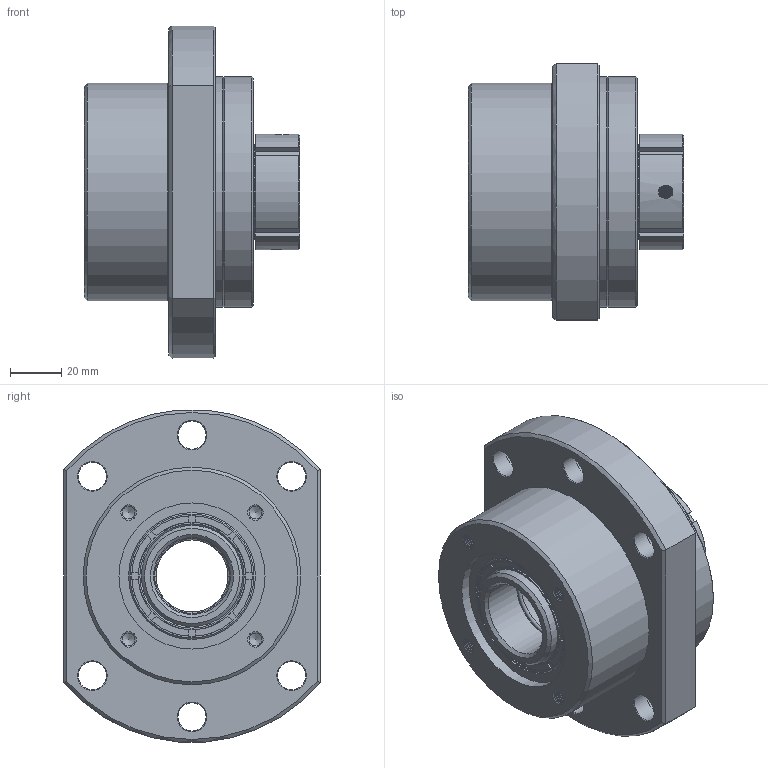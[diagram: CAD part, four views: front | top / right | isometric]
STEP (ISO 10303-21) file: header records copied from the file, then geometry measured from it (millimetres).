
FILE_DESCRIPTION(('STEP AP214'),'1');
FILE_NAME('WBK30DF (2).stp','2016-10-05T11:30:53',(' '),(' '),'Spatial InterOp 3D',' ',' ');
FILE_SCHEMA(('automotive_design'));
Length unit declared in the file: millimetre
Products named in the file (3): Assembly8; WBK30DF; WBK30DF_1
Assembly tree (2 placements, depth 2):
  Assembly8
    WBK30DF
    WBK30DF_1
Bounding box: 84 x 100 x 129.59 mm (x, y, z)
Volume: 386724.7 mm3; surface area: 96304.9 mm2
Topology: 2 solids, 25 shells, 1086 faces, 2658 edges, 1587 vertices
Faces by surface type: cone 538, plane 279, cylinder 99, torus 98, sphere 72
Full cylindrical faces by diameter (mm): 4.2 x2, 5 x8, 6.6 x6, 8 x6, 9 x6, 11 x6, 13 x6, 14 x6, 17.5 x6, 30 x4, 31.2 x1, 37 x1, 39.5 x6, 41.9 x4, 47.1 x8, 49.5 x3, 53.3 x1, 57 x2, 60.8 x1, 62 x4, 83.8 x1, 85 x1, 90 x2
Entity records: 48089 total; most frequent: CARTESIAN_POINT 8790, DIRECTION 4428, ORIENTED_EDGE 3742, STYLED_ITEM 2920, PRESENTATION_STYLE_ASSIGNMENT 2920, COLOUR_RGB 2920, AXIS2_PLACEMENT_3D 2006, EDGE_CURVE 1871
